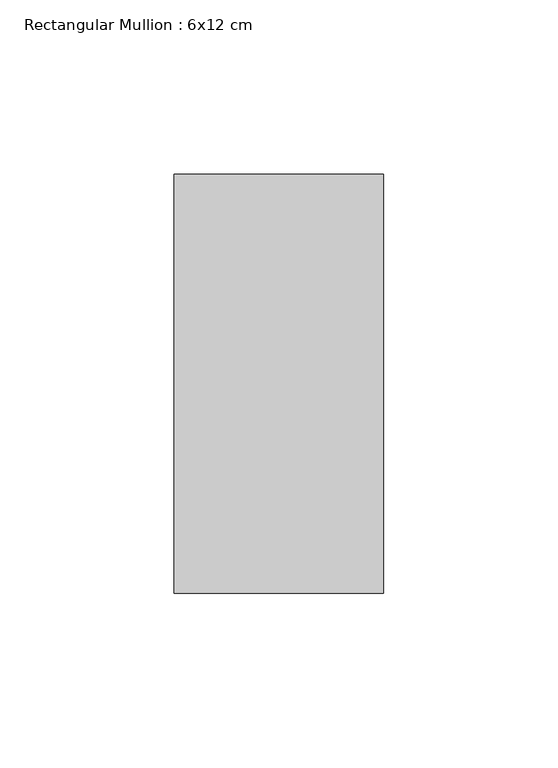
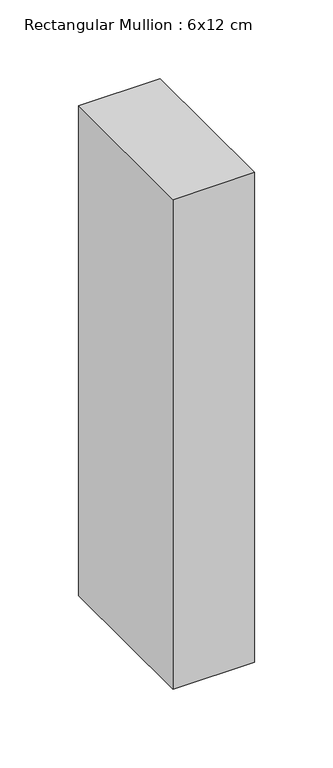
"""IFC4 building model written with IfcOpenShell, lengths in millimetres: member geometry, Rectangular Mullion : 6x12 cm."""

import ifcopenshell
import ifcopenshell.guid

model = None  # the IFC model being written
_history = None  # IfcOwnerHistory: only IFC2X3 demands one
_inside = {}  # id of a spatial element -> (the spatial element, [elements in it])
_under = {}  # id of a project, library or spatial element -> (it, [spatial elements below it])
_declared = {}  # id of a project -> (the project, [libraries it declares])
_typed = {}  # id of a type object -> (the type object, [elements of that type])
_made_of = {}  # id of a material, layer set ... -> (it, [elements and type objects made of it])


def new_model(schema):
    """Start an empty IFC model of exactly this schema.

    Asked for "IFC4X3", IfcOpenShell would pick the latest addendum, in which some entities
    have other attributes; the version numbers below select the first issue.
    IFC2X3 requires an IfcOwnerHistory on every rooted entity: one is made here for all.
    """
    global model, _history
    if schema == "IFC4X3":
        model = ifcopenshell.file(schema_version=(4, 3, 0, 0))
    else:
        model = ifcopenshell.file(schema=schema)
    _inside.clear()
    _under.clear()
    _declared.clear()
    _typed.clear()
    _made_of.clear()
    _history = None
    if model.schema == "IFC2X3":
        org = make("IfcOrganization", Name="unknown")
        user = make(
            "IfcPersonAndOrganization",
            ThePerson=make("IfcPerson", FamilyName="unknown"),
            TheOrganization=org,
        )
        app = make(
            "IfcApplication",
            ApplicationDeveloper=org,
            Version="unknown",
            ApplicationFullName="unknown",
            ApplicationIdentifier="unknown",
        )
        _history = make(
            "IfcOwnerHistory",
            OwningUser=user,
            OwningApplication=app,
            ChangeAction="ADDED",
            CreationDate=0,
        )
    return model


def make(cls, **values):
    """One entity of the class cls with the attributes given. An attribute that is None is left unset."""
    return model.create_entity(
        cls, **{name: value for name, value in values.items() if value is not None}
    )


def rooted(cls, **values):
    """An entity with a GlobalId (a new one), such as an element, a storey or a relation."""
    return make(cls, GlobalId=ifcopenshell.guid.new(), OwnerHistory=_history, **values)


def si_unit(unit_type, name, prefix=None):
    """IfcSIUnit, for example si_unit("LENGTHUNIT", "METRE", prefix="MILLI")."""
    return make("IfcSIUnit", UnitType=unit_type, Prefix=prefix, Name=name)


def assignment(units):
    """IfcUnitAssignment: the units of a project."""
    return None if units is None else make("IfcUnitAssignment", Units=units)


def point(xyz):
    """IfcCartesianPoint."""
    return None if xyz is None else make("IfcCartesianPoint", Coordinates=xyz)


def direction(xyz):
    """IfcDirection."""
    return None if xyz is None else make("IfcDirection", DirectionRatios=xyz)


def frame(location, z_axis=None, x_axis=None):
    """IfcAxis2Placement3D, a coordinate frame: its origin and axes. An axis left out is left unset."""
    return make(
        "IfcAxis2Placement3D",
        Location=point(location),
        Axis=direction(z_axis),
        RefDirection=direction(x_axis),
    )


def origin():
    """The frame at (0, 0, 0) with its axes left unset."""
    return frame((0.0, 0.0, 0.0))


def place(relative_to, where):
    """IfcLocalPlacement: puts the frame where relative to a parent placement (None: the world)."""
    return make(
        "IfcLocalPlacement", PlacementRelTo=relative_to, RelativePlacement=where
    )


def context(
    kind, dimensions, precision=None, world=None, true_north=None, identifier=None
):
    """IfcGeometricRepresentationContext, for example the 3D "Model" context."""
    return make(
        "IfcGeometricRepresentationContext",
        ContextIdentifier=identifier,
        ContextType=kind,
        CoordinateSpaceDimension=dimensions,
        Precision=precision,
        WorldCoordinateSystem=world,
        TrueNorth=true_north,
    )


def project(units=None, contexts=None):
    """IfcProject with its units and contexts."""
    return rooted(
        "IfcProject",
        Name="project",
        RepresentationContexts=contexts,
        UnitsInContext=assignment(units),
    )


def spatial(cls, under=None, at=None, **own):
    """A site, building, storey or space (cls), placed at a placement, below another one or the project."""
    s = rooted(cls, ObjectPlacement=at, **own)
    if under is not None:
        _under.setdefault(under.id(), (under, []))[1].append(s)
    return s


def polyline(points):
    """IfcPolyline through the points."""
    return make("IfcPolyline", Points=[point(p) for p in points])


def outline(outer, holes=None, kind="AREA"):
    """IfcArbitraryClosedProfileDef: a profile drawn as a closed curve; with holes, ...WithVoids."""
    if holes is None:
        return make("IfcArbitraryClosedProfileDef", ProfileType=kind, OuterCurve=outer)
    return make(
        "IfcArbitraryProfileDefWithVoids",
        ProfileType=kind,
        OuterCurve=outer,
        InnerCurves=holes,
    )


def extrude(swept, where, along, depth):
    """IfcExtrudedAreaSolid: the profile swept, set in the frame where, extruded along a direction by depth."""
    return make(
        "IfcExtrudedAreaSolid",
        SweptArea=swept,
        Position=where,
        ExtrudedDirection=direction(along),
        Depth=depth,
    )


def shape(context_of_items, identifier, shape_type, items):
    """IfcShapeRepresentation: the items that make up one representation, for example the "Body"."""
    return make(
        "IfcShapeRepresentation",
        ContextOfItems=context_of_items,
        RepresentationIdentifier=identifier,
        RepresentationType=shape_type,
        Items=items,
    )


def source(mapping_origin, context_of_items, identifier, shape_type, items):
    """IfcRepresentationMap: a shape defined once, which mapped items show again and again."""
    return make(
        "IfcRepresentationMap",
        MappingOrigin=mapping_origin,
        MappedRepresentation=shape(context_of_items, identifier, shape_type, items),
    )


def transform(
    local_origin,
    x_axis=None,
    y_axis=None,
    z_axis=None,
    scale=None,
    scale2=None,
    scale3=None,
    uniform=True,
):
    """IfcCartesianTransformationOperator3D, or its non-uniform kind. x_axis, y_axis, z_axis: its Axis1, 2, 3."""
    if uniform:
        return make(
            "IfcCartesianTransformationOperator3D",
            Axis1=direction(x_axis),
            Axis2=direction(y_axis),
            LocalOrigin=point(local_origin),
            Scale=scale,
            Axis3=direction(z_axis),
        )
    return make(
        "IfcCartesianTransformationOperator3DnonUniform",
        Axis1=direction(x_axis),
        Axis2=direction(y_axis),
        LocalOrigin=point(local_origin),
        Scale=scale,
        Axis3=direction(z_axis),
        Scale2=scale2,
        Scale3=scale3,
    )


def mapped(mapping_source, mapping_target):
    """IfcMappedItem: shows the shape of a source again, moved by a transform."""
    return make(
        "IfcMappedItem", MappingSource=mapping_source, MappingTarget=mapping_target
    )


def made_of(thing, what):
    """Note that an element or type object is made of a material, layer set ...; save() writes the relation."""
    if what is not None:
        _made_of.setdefault(what.id(), (what, []))[1].append(thing)
    return thing


def element(
    cls,
    number,
    at=None,
    inside=None,
    cuts=None,
    type_object=None,
    material=None,
    context=None,
    identifier="Body",
    shape_type=None,
    held_by="IfcProductDefinitionShape",
    body=None,
    shapes=None,
    **own,
):
    """One element of the class cls, such as IfcWall. Its Tag is "e" and its number.

    at: its placement. inside: the storey or other place that contains it. cuts: it is an
    opening in that element (IfcRelVoidsElement). A single representation is given by context,
    identifier, shape_type and body (its items); several are given by shapes. held_by: the class
    of the entity that holds the representations. save() writes the other relations.
    """
    e = rooted(cls, Tag="e%d" % number, ObjectPlacement=at, **own)
    if body is not None:
        shapes = [shape(context, identifier, shape_type, body)]
    if shapes is not None:
        e.Representation = make(held_by, Representations=shapes)
    if inside is not None:
        _inside.setdefault(inside.id(), (inside, []))[1].append(e)
    if cuts is not None:
        rooted(
            "IfcRelVoidsElement", RelatingBuildingElement=cuts, RelatedOpeningElement=e
        )
    if type_object is not None:
        _typed.setdefault(type_object.id(), (type_object, []))[1].append(e)
    return made_of(e, material)


def aggregate(whole, parts):
    """IfcRelAggregates: a whole, such as a stair, and the parts it consists of."""
    return rooted("IfcRelAggregates", RelatingObject=whole, RelatedObjects=parts)


def save(model, path):
    """Write the relations noted so far, then the file.

    IfcRelAggregates (storeys below a building ...), IfcRelContainedInSpatialStructure (elements
    in a storey), IfcRelDefinesByType, IfcRelAssociatesMaterial and IfcRelDeclares: one each for
    every whole, place, type object, material and project.
    """
    for whole, parts in _under.values():
        aggregate(whole, parts)
    for where, things in _inside.values():
        rooted(
            "IfcRelContainedInSpatialStructure",
            RelatedElements=things,
            RelatingStructure=where,
        )
    for kind, things in _typed.values():
        rooted("IfcRelDefinesByType", RelatedObjects=things, RelatingType=kind)
    for what, things in _made_of.values():
        rooted("IfcRelAssociatesMaterial", RelatedObjects=things, RelatingMaterial=what)
    for by, libraries in _declared.values():
        rooted("IfcRelDeclares", RelatingContext=by, RelatedDefinitions=libraries)
    model.write(path)


def rectangular_mullion_6x12_cm_ab328a55(model_context):
    return source(origin(), model_context, "Body", "SweptSolid", [
        extrude(outline(polyline([(30.0, 205.0), (30.0, 85.0), (-30.0, 85.0), (-30.0, 205.0), (30.0, 205.0)])), frame((0.0, 0.0, -380.0937741), z_axis=(0.0, 0.0, 1.0), x_axis=(1.0, 0.0, 0.0)), (0.0, 0.0, 1.0), 380.0937741),
    ])


if __name__ == "__main__":
    model = new_model("IFC4")
    model_context = context("Model", 3, world=origin())
    ifc_project = project(units=[si_unit("LENGTHUNIT", "METRE", prefix="MILLI")], contexts=[model_context])
    site = spatial("IfcSite", under=ifc_project)
    building = spatial("IfcBuilding", under=site)
    placement = place(None, origin())
    rectangular_mullion_6x12_cm_shape = rectangular_mullion_6x12_cm_ab328a55(model_context)
    element("IfcMember", 1, ObjectType="Rectangular Mullion : 6x12 cm", at=placement, inside=building, context=model_context, shape_type="MappedRepresentation", body=[
        mapped(rectangular_mullion_6x12_cm_shape, transform((0.0, 0.0, 0.0), x_axis=(1.0, 0.0, 0.0), y_axis=(0.0, 1.0, 0.0), z_axis=(0.0, 0.0, 1.0))),
    ])
    save(model, "model.ifc")
